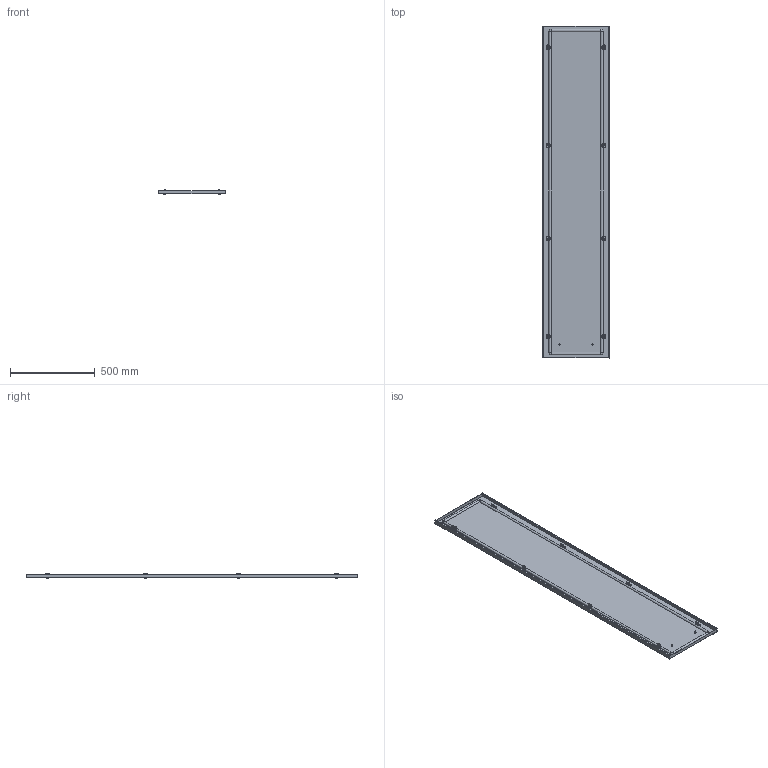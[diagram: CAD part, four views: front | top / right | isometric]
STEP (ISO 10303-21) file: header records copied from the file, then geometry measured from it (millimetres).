
FILE_DESCRIPTION(('Open CASCADE Model'),'2;1');
FILE_NAME('Open CASCADE Shape Model','2025-02-07T16:30:45',('Author'),( 'Open CASCADE'),'Open CASCADE STEP processor 7.8','Open CASCADE 7.8' ,'Unknown');
FILE_SCHEMA(('AUTOMOTIVE_DESIGN { 1 0 10303 214 1 1 1 1 }'));
Length unit declared in the file: millimetre
Products named in the file (10): Compound1; Compound2; Compound3; Solid1; Solid2; Solid3; Solid4; Solid5; Solid6; Solid7
Assembly tree (40 placements, depth 4):
  Compound1
    Compound2
      Compound3
        Solid1
        Solid2  x4
      Solid3
    Solid4  x8
    Solid5  x8
    Solid6  x8
    Solid7  x8
Bounding box: 394 x 1955 x 23.8 mm (x, y, z)
Volume: 1756555.2 mm3; surface area: 2004237.3 mm2
Topology: 38 solids, 38 shells, 1655 faces, 4040 edges, 2460 vertices
Faces by surface type: plane 1043, cone 308, cylinder 268, torus 25, bspline 8, revolution 3
Full cylindrical faces by diameter (mm): 5 x16, 6 x132, 7.5 x4, 8 x16, 10 x8, 11.57 x8
Entity records: 7823 total; most frequent: CARTESIAN_POINT 1513, DIRECTION 1262, ORIENTED_EDGE 1244, EDGE_CURVE 622, AXIS2_PLACEMENT_3D 425, LINE 409, VECTOR 409, VERTEX_POINT 387
